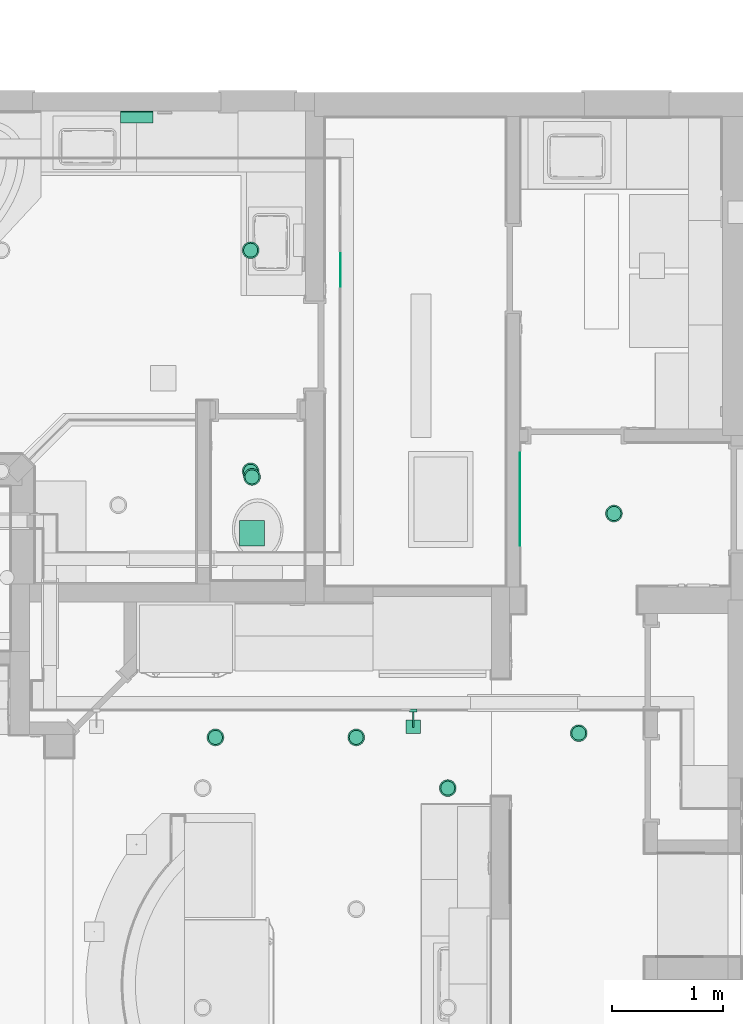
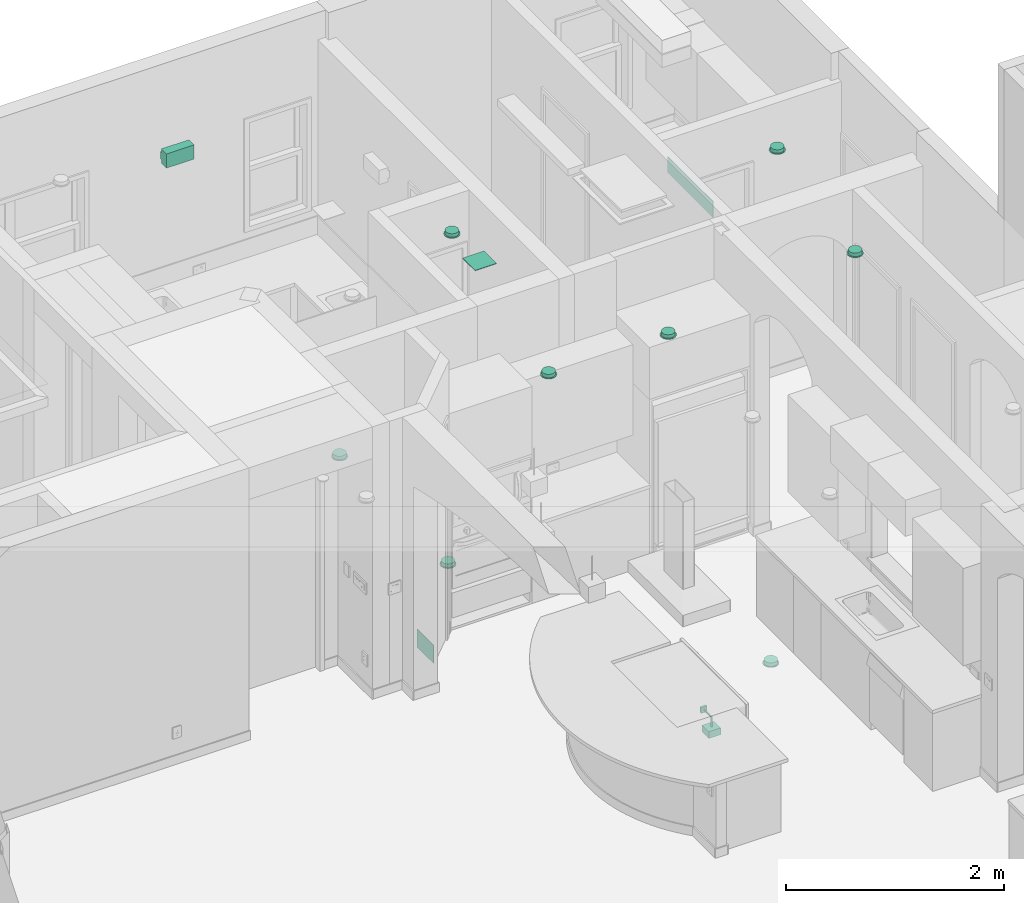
# One storey, part 42 of 60: 13 flow terminals.
"""IFC2X3 building model written with IfcOpenShell, lengths in feet."""

from ifc_helpers import new_model, entity, si_unit, converted_unit, direction, frame, frame_2d, origin, origin_2d_with_axis, place, context, subcontext, project, spatial, rectangle, extrude, faceted_brep, source, transform, mapped, material, material_list, type_object, type_shapes, element, save


model = new_model("IFC2X3")

# Units and contexts
model_context = context("Model", 3, precision=0.0001, world=origin(), true_north=direction((6.123031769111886e-17, 1.0)))
plan_context = context("Plan", 3, precision=0.0001, world=origin(), true_north=direction((6.123031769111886e-17, 1.0)))
body_context = subcontext(model_context, "Body", "Model", "MODEL_VIEW")
ifc_project = project(units=[converted_unit("LENGTHUNIT", "FOOT", entity("IfcLengthMeasure", 0.3048), si_unit("LENGTHUNIT", "METRE"), dimensions=[1, 0, 0, 0, 0, 0, 0]), converted_unit("AREAUNIT", "SQUARE FOOT", entity("IfcAreaMeasure", 0.09290304), si_unit("AREAUNIT", "SQUARE_METRE"), dimensions=[2, 0, 0, 0, 0, 0, 0]), converted_unit("PLANEANGLEUNIT", "DEGREE", entity("IfcPlaneAngleMeasure", 0.017453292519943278), si_unit("PLANEANGLEUNIT", "RADIAN"), dimensions=[0, 0, 0, 0, 0, 0, 0])], contexts=[model_context, plan_context])

# Site, building, storey
site_placement = place(None, origin())
site = spatial("IfcSite", under=ifc_project, at=site_placement, Name="Default", CompositionType="ELEMENT")
building_placement = place(site_placement, origin())
building = spatial("IfcBuilding", under=site, at=building_placement, CompositionType="ELEMENT")
storey_placement = place(building_placement, origin())
storey = spatial("IfcBuildingStorey", under=building, at=storey_placement, Name="First floor", CompositionType="ELEMENT", Elevation=0.0)

# Flow terminals
ifc_material_1 = material(Name="Default New Material")
ifc_material_2 = material(Name="Glass, White, High Luminance")
ifc_material_list = material_list([ifc_material_1, ifc_material_2])
light_fixture_type_1 = type_object("IfcLightFixtureType", Name="C_Spotlight Recessed:Light 2", PredefinedType="NOTDEFINED", material=ifc_material_list)
shared_shape_1 = source(origin(), body_context, "Body", "Brep", [
    faceted_brep([(-0.12499999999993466, 0.21650635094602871, 0.020833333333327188), (-0.17677669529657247, 0.17677669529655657, 0.020833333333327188), (-0.08333333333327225, 0.14433756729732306, 0.020833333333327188), (-0.04313650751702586, 0.1609876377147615, 0.020833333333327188), (-0.0647047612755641, 0.24148145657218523, 0.020833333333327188), (-0.11785113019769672, 0.11785113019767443, 0.020833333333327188), (-0.21650635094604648, 0.12499999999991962, 0.020833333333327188), (-0.1443375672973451, 0.08333333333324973, 0.020833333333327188), (-0.16098763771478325, 0.04313650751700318, 0.020833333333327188), (-0.2414814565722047, 0.06470476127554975, 0.020833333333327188), (-0.166666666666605, 0.0, 0.020833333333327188), (-0.24999999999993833, 0.0, 0.020833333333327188), (-0.16098763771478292, -0.043136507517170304, 0.020833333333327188), (-0.24148145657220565, -0.06470476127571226, 0.020833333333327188), (-0.14433756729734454, -0.08333333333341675, 0.020833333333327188), (-0.2165063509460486, -0.12500000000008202, 0.020833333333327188), (-0.117851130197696, -0.11785113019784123, 0.020833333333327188), (-0.1767766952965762, -0.17677669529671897, 0.020833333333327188), (-0.08333333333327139, -0.14433756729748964, 0.020833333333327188), (-0.12499999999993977, -0.21650635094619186, 0.020833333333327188), (-0.04313650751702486, -0.16098763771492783, 0.020833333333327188), (-0.06470476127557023, -0.24148145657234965, 0.020833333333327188), (0.0, -0.1666666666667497, 0.020833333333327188), (0.0, -0.25000000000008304, 0.020833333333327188), (0.04313650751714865, -0.1609876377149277, 0.020833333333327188), (0.06470476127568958, -0.24148145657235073, 0.020833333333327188), (0.08333333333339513, -0.1443375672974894, 0.020833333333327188), (0.12500000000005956, -0.21650635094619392, 0.020833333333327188), (0.11785113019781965, -0.11785113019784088, 0.020833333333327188), (0.1767766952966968, -0.1767766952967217, 0.020833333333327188), (0.14433756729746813, -0.0833333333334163, 0.020833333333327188), (0.21650635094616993, -0.12500000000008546, 0.020833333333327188), (0.24148145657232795, -0.06470476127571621, 0.020833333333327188), (0.16098763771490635, -0.0431365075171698, 0.020833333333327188), (0.2500000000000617, 0.0, 0.020833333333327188), (0.1666666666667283, 0.0, 0.020833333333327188), (0.24148145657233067, 0.06470476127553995, 0.020833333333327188), (0.16098763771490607, 0.04313650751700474, 0.020833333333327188), (0.21650635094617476, 0.12499999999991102, 0.020833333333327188), (0.14433756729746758, 0.08333333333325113, 0.020833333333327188), (0.17677669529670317, 0.17677669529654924, 0.020833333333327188), (0.1178511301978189, 0.11785113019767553, 0.020833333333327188), (0.1250000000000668, 0.21650635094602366, 0.020833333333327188), (0.08333333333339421, 0.14433756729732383, 0.020833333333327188), (0.06470476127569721, 0.2414814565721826, 0.020833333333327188), (0.04313650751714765, 0.16098763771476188, 0.020833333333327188), (0.0, 0.24999999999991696, 0.020833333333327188), (0.0, 0.1666666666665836, 0.020833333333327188), (-0.12499999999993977, -0.21650635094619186, 0.0), (-0.1767766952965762, -0.17677669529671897, 0.0), (-0.08333333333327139, -0.14433756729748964, 0.0), (-0.04313650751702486, -0.16098763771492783, 0.0), (-0.06470476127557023, -0.24148145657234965, 0.0), (-0.117851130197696, -0.11785113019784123, 0.0), (-0.2165063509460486, -0.12500000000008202, 0.0), (-0.14433756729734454, -0.08333333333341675, 0.0), (-0.16098763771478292, -0.043136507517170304, 0.0), (-0.24148145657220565, -0.06470476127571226, 0.0), (-0.166666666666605, 0.0, 0.0), (-0.24999999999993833, 0.0, 0.0), (-0.16098763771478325, 0.04313650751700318, 0.0), (-0.2414814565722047, 0.06470476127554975, 0.0), (-0.1443375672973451, 0.08333333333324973, 0.0), (-0.21650635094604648, 0.12499999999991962, 0.0), (-0.11785113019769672, 0.11785113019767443, 0.0), (-0.17677669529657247, 0.17677669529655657, 0.0), (-0.08333333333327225, 0.14433756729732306, 0.0), (-0.12499999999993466, 0.21650635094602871, 0.0), (-0.04313650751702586, 0.1609876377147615, 0.0), (-0.0647047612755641, 0.24148145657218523, 0.0), (0.0, 0.1666666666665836, 0.0), (0.0, 0.24999999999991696, 0.0), (0.04313650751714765, 0.16098763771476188, 0.0), (0.06470476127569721, 0.2414814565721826, 0.0), (0.08333333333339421, 0.14433756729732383, 0.0), (0.1250000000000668, 0.21650635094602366, 0.0), (0.1178511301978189, 0.11785113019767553, 0.0), (0.17677669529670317, 0.17677669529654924, 0.0), (0.14433756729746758, 0.08333333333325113, 0.0), (0.21650635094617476, 0.12499999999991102, 0.0), (0.24148145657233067, 0.06470476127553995, 0.0), (0.16098763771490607, 0.04313650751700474, 0.0), (0.2500000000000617, 0.0, 0.0), (0.1666666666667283, 0.0, 0.0), (0.24148145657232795, -0.06470476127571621, 0.0), (0.16098763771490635, -0.0431365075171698, 0.0), (0.21650635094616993, -0.12500000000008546, 0.0), (0.14433756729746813, -0.0833333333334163, 0.0), (0.1767766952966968, -0.1767766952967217, 0.0), (0.11785113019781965, -0.11785113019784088, 0.0), (0.12500000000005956, -0.21650635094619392, 0.0), (0.08333333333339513, -0.1443375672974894, 0.0), (0.06470476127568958, -0.24148145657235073, 0.0), (0.04313650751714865, -0.1609876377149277, 0.0), (0.0, -0.25000000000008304, 0.0), (0.0, -0.1666666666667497, 0.0)], [[[0, 1, 2]], [[0, 2, 3]], [[3, 4, 0]], [[2, 1, 5]], [[6, 5, 1]], [[7, 5, 6]], [[8, 7, 6]], [[8, 6, 9]], [[8, 9, 10]], [[10, 9, 11]], [[12, 10, 11]], [[12, 11, 13]], [[14, 12, 13]], [[14, 13, 15]], [[16, 14, 15]], [[15, 17, 16]], [[17, 18, 16]], [[18, 17, 19]], [[18, 19, 20]], [[21, 20, 19]], [[20, 21, 22]], [[22, 21, 23]], [[23, 24, 22]], [[24, 23, 25]], [[24, 25, 26]], [[27, 26, 25]], [[27, 28, 26]], [[27, 29, 28]], [[30, 28, 29]], [[31, 30, 29]], [[32, 30, 31]], [[33, 30, 32]], [[33, 32, 34]], [[34, 35, 33]], [[36, 35, 34]], [[36, 37, 35]], [[37, 36, 38]], [[39, 37, 38]], [[39, 38, 40]], [[39, 40, 41]], [[40, 42, 41]], [[41, 42, 43]], [[43, 42, 44]], [[44, 45, 43]], [[46, 45, 44]], [[4, 47, 46]], [[45, 46, 47]], [[4, 3, 47]], [[48, 49, 50]], [[48, 50, 51]], [[51, 52, 48]], [[50, 49, 53]], [[54, 53, 49]], [[55, 53, 54]], [[56, 55, 54]], [[56, 54, 57]], [[56, 57, 58]], [[58, 57, 59]], [[60, 58, 59]], [[60, 59, 61]], [[62, 60, 61]], [[62, 61, 63]], [[64, 62, 63]], [[63, 65, 64]], [[65, 66, 64]], [[66, 65, 67]], [[66, 67, 68]], [[69, 68, 67]], [[68, 69, 70]], [[70, 69, 71]], [[71, 72, 70]], [[72, 71, 73]], [[72, 73, 74]], [[75, 74, 73]], [[75, 76, 74]], [[75, 77, 76]], [[78, 76, 77]], [[79, 78, 77]], [[80, 78, 79]], [[81, 78, 80]], [[81, 80, 82]], [[82, 83, 81]], [[84, 83, 82]], [[84, 85, 83]], [[85, 84, 86]], [[87, 85, 86]], [[87, 86, 88]], [[87, 88, 89]], [[88, 90, 89]], [[89, 90, 91]], [[91, 90, 92]], [[92, 93, 91]], [[94, 93, 92]], [[52, 95, 94]], [[93, 94, 95]], [[52, 51, 95]], [[10, 58, 60, 8]], [[8, 60, 62, 7]], [[2, 5, 64, 66]], [[62, 64, 5, 7]], [[3, 2, 66, 68]], [[70, 47, 3, 68]], [[45, 72, 74, 43]], [[43, 74, 76, 41]], [[37, 39, 78, 81]], [[76, 78, 39, 41]], [[35, 37, 81, 83]], [[45, 47, 70, 72]], [[35, 83, 85, 33]], [[33, 85, 87, 30]], [[26, 28, 89, 91]], [[87, 89, 28, 30]], [[24, 26, 91, 93]], [[95, 22, 24, 93]], [[20, 51, 50, 18]], [[18, 50, 53, 16]], [[12, 14, 55, 56]], [[53, 55, 14, 16]], [[10, 12, 56, 58]], [[20, 22, 95, 51]], [[57, 13, 11, 59]], [[54, 15, 13, 57]], [[19, 17, 49, 48]], [[54, 49, 17, 15]], [[21, 19, 48, 52]], [[23, 21, 52, 94]], [[92, 25, 23, 94]], [[90, 27, 25, 92]], [[31, 29, 88, 86]], [[90, 88, 29, 27]], [[32, 31, 86, 84]], [[34, 32, 84, 82]], [[80, 36, 34, 82]], [[79, 38, 36, 80]], [[42, 40, 77, 75]], [[79, 77, 40, 38]], [[44, 42, 75, 73]], [[46, 44, 73, 71]], [[69, 4, 46, 71]], [[67, 0, 4, 69]], [[6, 1, 65, 63]], [[67, 65, 1, 0]], [[9, 6, 63, 61]], [[11, 9, 61, 59]]]),
    faceted_brep([(0.043136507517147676, -0.160987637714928, 0.020833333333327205), (0.08333333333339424, -0.14433756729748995, 0.020833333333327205), (0.11785113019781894, -0.11785113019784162, 0.020833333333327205), (0.14433756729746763, -0.08333333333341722, 0.020833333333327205), (0.16098763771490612, -0.043136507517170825, 0.020833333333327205), (0.16666666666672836, 0.0, 0.020833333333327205), (0.1609876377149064, 0.04313650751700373, 0.020833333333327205), (0.1443375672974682, 0.08333333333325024, 0.020833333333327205), (0.11785113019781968, 0.11785113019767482, 0.020833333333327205), (0.08333333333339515, 0.14433756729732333, 0.020833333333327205), (0.043136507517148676, 0.16098763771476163, 0.020833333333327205), (0.0, 0.16666666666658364, 0.020833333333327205), (-0.04313650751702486, 0.16098763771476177, 0.020833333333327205), (-0.08333333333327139, 0.14433756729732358, 0.020833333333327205), (-0.117851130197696, 0.11785113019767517, 0.020833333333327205), (-0.1443375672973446, 0.08333333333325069, 0.020833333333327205), (-0.16098763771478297, 0.043136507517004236, 0.020833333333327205), (-0.166666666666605, 0.0, 0.020833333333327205), (-0.1609876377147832, -0.04313650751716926, 0.020833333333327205), (-0.14433756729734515, -0.08333333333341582, 0.020833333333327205), (-0.11785113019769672, -0.11785113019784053, 0.020833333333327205), (-0.08333333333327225, -0.14433756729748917, 0.020833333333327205), (-0.04313650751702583, -0.1609876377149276, 0.020833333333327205), (0.0, -0.16666666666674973, 0.020833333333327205), (0.043136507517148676, 0.16098763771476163, 0.0), (0.08333333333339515, 0.14433756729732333, 0.0), (0.11785113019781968, 0.11785113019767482, 0.0), (0.1443375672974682, 0.08333333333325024, 0.0), (0.1609876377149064, 0.04313650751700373, 0.0), (0.16666666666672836, 0.0, 0.0), (0.16098763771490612, -0.043136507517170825, 0.0), (0.14433756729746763, -0.08333333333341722, 0.0), (0.11785113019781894, -0.11785113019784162, 0.0), (0.08333333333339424, -0.14433756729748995, 0.0), (0.043136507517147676, -0.160987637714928, 0.0), (0.0, -0.16666666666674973, 0.0), (-0.04313650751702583, -0.1609876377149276, 0.0), (-0.08333333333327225, -0.14433756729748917, 0.0), (-0.11785113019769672, -0.11785113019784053, 0.0), (-0.14433756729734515, -0.08333333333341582, 0.0), (-0.1609876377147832, -0.04313650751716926, 0.0), (-0.166666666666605, 0.0, 0.0), (-0.16098763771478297, 0.043136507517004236, 0.0), (-0.1443375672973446, 0.08333333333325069, 0.0), (-0.117851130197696, 0.11785113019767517, 0.0), (-0.08333333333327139, 0.14433756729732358, 0.0), (-0.04313650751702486, 0.16098763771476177, 0.0), (0.0, 0.16666666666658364, 0.0)], [[[0, 1, 2, 3, 4, 5, 6, 7, 8, 9, 10, 11, 12, 13, 14, 15, 16, 17, 18, 19, 20, 21, 22, 23]], [[24, 25, 26, 27, 28, 29, 30, 31, 32, 33, 34, 35, 36, 37, 38, 39, 40, 41, 42, 43, 44, 45, 46, 47]], [[40, 18, 17, 41]], [[39, 19, 18, 40]], [[21, 20, 38, 37]], [[39, 38, 20, 19]], [[22, 21, 37, 36]], [[23, 22, 36, 35]], [[34, 0, 23, 35]], [[33, 1, 0, 34]], [[3, 2, 32, 31]], [[33, 32, 2, 1]], [[4, 3, 31, 30]], [[5, 4, 30, 29]], [[28, 6, 5, 29]], [[27, 7, 6, 28]], [[9, 8, 26, 25]], [[27, 26, 8, 7]], [[10, 9, 25, 24]], [[11, 10, 24, 47]], [[46, 12, 11, 47]], [[45, 13, 12, 46]], [[15, 14, 44, 43]], [[45, 44, 14, 13]], [[16, 15, 43, 42]], [[17, 16, 42, 41]]]),
    faceted_brep([(0.0, -0.16666666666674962, -0.10416666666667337), (0.04313650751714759, -0.1609876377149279, -0.10416666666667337), (0.08333333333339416, -0.1443375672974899, -0.10416666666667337), (0.1178511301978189, -0.11785113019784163, -0.10416666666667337), (0.1443375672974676, -0.08333333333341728, -0.10416666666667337), (0.16098763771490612, -0.043136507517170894, -0.10416666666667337), (0.16666666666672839, 0.0, -0.10416666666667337), (0.16098763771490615, 0.04313650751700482, -0.10416666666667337), (0.14433756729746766, 0.08333333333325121, -0.10416666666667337), (0.11785113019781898, 0.11785113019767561, -0.10416666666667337), (0.0833333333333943, 0.14433756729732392, -0.10416666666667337), (0.04313650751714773, 0.16098763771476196, -0.10416666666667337), (0.0, 0.1666666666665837, -0.10416666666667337), (-0.043136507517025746, 0.16098763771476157, -0.10416666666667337), (-0.08333333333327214, 0.14433756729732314, -0.10416666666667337), (-0.11785113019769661, 0.11785113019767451, -0.10416666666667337), (-0.14433756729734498, 0.08333333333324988, -0.10416666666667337), (-0.16098763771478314, 0.04313650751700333, -0.10416666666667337), (-0.16666666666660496, 0.0, -0.10416666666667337), (-0.16098763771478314, -0.04313650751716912, -0.10416666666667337), (-0.1443375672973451, -0.08333333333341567, -0.10416666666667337), (-0.11785113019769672, -0.11785113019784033, -0.10416666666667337), (-0.08333333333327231, -0.14433756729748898, -0.10416666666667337), (-0.04313650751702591, -0.16098763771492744, -0.10416666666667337), (0.0, 0.20833333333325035, -0.12500000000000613), (0.053920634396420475, 0.20123454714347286, -0.12500000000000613), (0.10416666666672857, 0.18042195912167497, -0.12500000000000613), (0.14731391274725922, 0.14731391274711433, -0.12500000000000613), (0.18042195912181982, 0.1041666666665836, -0.12500000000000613), (0.2012345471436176, 0.053920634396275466, -0.12500000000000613), (0.20833333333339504, 0.0, -0.12500000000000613), (0.20123454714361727, -0.0539206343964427, -0.12500000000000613), (0.18042195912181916, -0.10416666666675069, -0.12500000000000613), (0.1473139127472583, -0.14731391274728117, -0.12500000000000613), (0.10416666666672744, -0.18042195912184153, -0.12500000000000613), (0.053920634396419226, -0.2012345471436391, -0.12500000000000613), (0.0, -0.20833333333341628, -0.12500000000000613), (-0.05392063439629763, -0.20123454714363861, -0.12500000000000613), (-0.10416666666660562, -0.18042195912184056, -0.12500000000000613), (-0.14731391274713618, -0.1473139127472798, -0.12500000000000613), (-0.18042195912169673, -0.10416666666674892, -0.12500000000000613), (-0.20123454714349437, -0.05392063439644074, -0.12500000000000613), (-0.2083333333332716, 0.0, -0.12500000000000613), (-0.20123454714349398, 0.053920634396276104, -0.12500000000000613), (-0.18042195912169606, 0.10416666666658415, -0.12500000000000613), (-0.1473139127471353, 0.14731391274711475, -0.12500000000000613), (-0.10416666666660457, 0.1804219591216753, -0.12500000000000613), (-0.05392063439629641, 0.20123454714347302, -0.12500000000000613), (-0.2012345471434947, -0.053920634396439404, -0.10416666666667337), (-0.20123454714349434, -0.053920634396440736, 0.0), (-0.20833333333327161, 0.0, 0.0), (-0.2083333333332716, 0.0, -0.10416666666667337), (-0.1804219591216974, -0.10416666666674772, -0.10416666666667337), (-0.1804219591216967, -0.10416666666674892, 0.0), (-0.10416666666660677, -0.18042195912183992, -0.10416666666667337), (-0.10416666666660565, -0.18042195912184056, 0.0), (-0.1473139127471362, -0.1473139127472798, 0.0), (-0.14731391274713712, -0.14731391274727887, -0.10416666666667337), (-0.053920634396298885, -0.20123454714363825, -0.10416666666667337), (-0.05392063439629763, -0.20123454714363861, 0.0), (0.0, -0.20833333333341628, -0.10416666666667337), (0.0, -0.20833333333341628, 0.0), (0.05392063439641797, -0.20123454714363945, -0.10416666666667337), (0.053920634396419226, -0.2012345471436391, 0.0), (0.10416666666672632, -0.1804219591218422, -0.10416666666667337), (0.10416666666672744, -0.18042195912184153, 0.0), (0.1804219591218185, -0.1041666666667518, -0.10416666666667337), (0.18042195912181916, -0.10416666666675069, 0.0), (0.1473139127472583, -0.14731391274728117, 0.0), (0.1473139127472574, -0.1473139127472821, -0.10416666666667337), (0.20123454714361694, -0.05392063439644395, -0.10416666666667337), (0.20123454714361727, -0.05392063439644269, 0.0), (0.20833333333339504, 0.0, -0.10416666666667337), (0.20833333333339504, 0.0, 0.0), (0.2012345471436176, 0.053920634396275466, -0.10416666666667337), (0.2012345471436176, 0.05392063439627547, 0.0), (0.18042195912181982, 0.1041666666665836, -0.10416666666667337), (0.18042195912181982, 0.1041666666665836, 0.0), (0.10416666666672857, 0.18042195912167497, -0.10416666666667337), (0.10416666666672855, 0.18042195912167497, 0.0), (0.14731391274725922, 0.14731391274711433, 0.0), (0.14731391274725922, 0.14731391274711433, -0.10416666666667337), (0.053920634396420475, 0.20123454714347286, -0.10416666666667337), (0.053920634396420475, 0.20123454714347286, 0.0), (0.0, 0.20833333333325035, -0.10416666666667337), (0.0, 0.20833333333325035, 0.0), (-0.05392063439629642, 0.20123454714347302, -0.10416666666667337), (-0.05392063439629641, 0.20123454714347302, 0.0), (-0.10416666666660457, 0.1804219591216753, -0.10416666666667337), (-0.10416666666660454, 0.1804219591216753, 0.0), (-0.18042195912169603, 0.10416666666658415, -0.10416666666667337), (-0.18042195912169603, 0.10416666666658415, 0.0), (-0.14731391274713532, 0.14731391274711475, 0.0), (-0.14731391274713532, 0.14731391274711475, -0.10416666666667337), (-0.20123454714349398, 0.053920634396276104, -0.10416666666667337), (-0.20123454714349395, 0.05392063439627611, 0.0), (-0.08333333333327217, 0.14433756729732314, 0.0), (-0.043136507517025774, 0.16098763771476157, 0.0), (-0.11785113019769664, 0.11785113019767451, 0.0), (-0.144337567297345, 0.08333333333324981, 0.0), (-0.16098763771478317, 0.04313650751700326, 0.0), (-0.16666666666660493, 0.0, 0.0), (-0.16098763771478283, -0.04313650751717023, 0.0), (-0.14433756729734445, -0.08333333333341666, 0.0), (-0.11785113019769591, -0.11785113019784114, 0.0), (-0.08333333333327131, -0.14433756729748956, 0.0), (-0.043136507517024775, -0.16098763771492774, 0.0), (0.0, -0.16666666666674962, 0.0), (0.04313650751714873, -0.1609876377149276, 0.0), (0.08333333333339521, -0.1443375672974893, 0.0), (0.11785113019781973, -0.1178511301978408, 0.0), (0.14433756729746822, -0.08333333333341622, 0.0), (0.16098763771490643, -0.04313650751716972, 0.0), (0.16666666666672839, 0.0, 0.0), (0.16098763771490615, 0.04313650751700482, 0.0), (0.14433756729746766, 0.08333333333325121, 0.0), (0.11785113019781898, 0.11785113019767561, 0.0), (0.0833333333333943, 0.14433756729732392, 0.0), (0.04313650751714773, 0.16098763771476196, 0.0), (0.0, 0.1666666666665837, 0.0)], [[[0, 1, 2, 3, 4, 5, 6, 7, 8, 9, 10, 11, 12, 13, 14, 15, 16, 17, 18, 19, 20, 21, 22, 23]], [[24, 25, 26, 27, 28, 29, 30, 31, 32, 33, 34, 35, 36, 37, 38, 39, 40, 41, 42, 43, 44, 45, 46, 47]], [[41, 48, 49, 50, 51, 42]], [[40, 52, 53, 49, 48, 41]], [[54, 55, 56, 57, 39, 38]], [[40, 39, 57, 56, 53, 52]], [[58, 59, 55, 54, 38, 37]], [[60, 61, 59, 58, 37, 36]], [[35, 62, 63, 61, 60, 36]], [[34, 64, 65, 63, 62, 35]], [[66, 67, 68, 69, 33, 32]], [[34, 33, 69, 68, 65, 64]], [[70, 71, 67, 66, 32, 31]], [[72, 73, 71, 70, 31, 30]], [[29, 74, 75, 73, 72, 30]], [[28, 76, 77, 75, 74, 29]], [[78, 79, 80, 81, 27, 26]], [[28, 27, 81, 80, 77, 76]], [[82, 83, 79, 78, 26, 25]], [[84, 85, 83, 82, 25, 24]], [[47, 86, 87, 85, 84, 24]], [[46, 88, 89, 87, 86, 47]], [[90, 91, 92, 93, 45, 44]], [[46, 45, 93, 92, 89, 88]], [[94, 95, 91, 90, 44, 43]], [[51, 50, 95, 94, 43, 42]], [[89, 92, 96]], [[89, 96, 97]], [[97, 87, 89]], [[96, 92, 98]], [[91, 98, 92]], [[99, 98, 91]], [[100, 99, 91]], [[100, 91, 95]], [[100, 95, 101]], [[101, 95, 50]], [[102, 101, 50]], [[102, 50, 49]], [[103, 102, 49]], [[103, 49, 53]], [[104, 103, 53]], [[53, 56, 104]], [[56, 105, 104]], [[105, 56, 55]], [[105, 55, 106]], [[59, 106, 55]], [[106, 59, 107]], [[107, 59, 61]], [[61, 108, 107]], [[108, 61, 63]], [[108, 63, 109]], [[65, 109, 63]], [[65, 110, 109]], [[65, 68, 110]], [[111, 110, 68]], [[67, 111, 68]], [[71, 111, 67]], [[112, 111, 71]], [[112, 71, 73]], [[73, 113, 112]], [[75, 113, 73]], [[75, 114, 113]], [[114, 75, 77]], [[115, 114, 77]], [[115, 77, 80]], [[115, 80, 116]], [[80, 79, 116]], [[116, 79, 117]], [[117, 79, 83]], [[83, 118, 117]], [[85, 118, 83]], [[87, 119, 85]], [[85, 119, 118]], [[87, 97, 119]], [[113, 6, 5, 112]], [[112, 5, 4, 111]], [[109, 110, 3, 2]], [[4, 3, 110, 111]], [[108, 109, 2, 1]], [[0, 107, 108, 1]], [[104, 105, 22, 21]], [[23, 22, 105, 106]], [[102, 103, 20, 19]], [[104, 21, 20, 103]], [[102, 19, 18, 101]], [[0, 23, 106, 107]], [[101, 18, 17, 100]], [[100, 17, 16, 99]], [[96, 98, 15, 14]], [[16, 15, 98, 99]], [[97, 96, 14, 13]], [[12, 119, 97, 13]], [[118, 11, 10, 117]], [[117, 10, 9, 116]], [[114, 115, 8, 7]], [[9, 8, 115, 116]], [[113, 114, 7, 6]], [[118, 119, 12, 11]]]),
])
type_shapes(light_fixture_type_1, [shared_shape_1])
for number, where, z_axis, x_axis, name in (
    (1, (15.500006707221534, 29.082949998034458, 21.166666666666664), (0.0, 0.0, -1.0), (-1.0, 2.862709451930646e-05, 0.0), "C_Spotlight Recessed:Light 2"),
    (2, (16.541666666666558, 35.5829881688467, 20.666666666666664), (0.0, 0.0, -1.0), (1.0, 0.0, 0.0), "C_Spotlight Recessed:Light 2"),
    (3, (5.833333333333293, 36.66666666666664, 20.666666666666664), (0.0, 0.0, -1.0), (1.0, 0.0, 0.0), "C_Spotlight Recessed:Light 2"),
    (4, (8.916329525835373, 28.958333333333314, 20.541666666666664), (0.0, 0.0, -1.0), (0.0, -1.0, 0.0), "C_Spotlight Recessed:Light 2"),
    (5, (4.749662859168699, 28.958333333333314, 20.541666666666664), (0.0, 0.0, -1.0), (0.0, -1.0, 0.0), "C_Spotlight Recessed:Light 2"),
    (6, (11.62499999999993, 27.458333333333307, 8.416666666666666), (0.0, 0.0, -1.0), (0.0, -1.0, 0.0), "C_Spotlight Recessed:Light 2"),
    (7, (5.791666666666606, 36.83333333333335, 8.416666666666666), (0.0, 0.0, -1.0), (0.0, -1.0, 0.0), "C_Spotlight Recessed:Light 2"),
    (8, (5.791666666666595, 43.375000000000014, 8.416666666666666), (0.0, 0.0, -1.0), (0.0, -1.0, 0.0), "C_Spotlight Recessed:Light 2"),
):
    element("IfcFlowTerminal", number, at=place(storey_placement, frame(where, z_axis=z_axis, x_axis=x_axis)), inside=storey, type_object=light_fixture_type_1, material=ifc_material_list, Name=name, ObjectType="C_Spotlight Recessed:Light 2", context=body_context, shape_type="MappedRepresentation", body=[
        mapped(shared_shape_1, transform((0.0, 0.0, 0.0), scale=1.0)),
    ])
air_terminal_type_1 = type_object("IfcAirTerminalType", Name="C_Grill_Surface Based:Standard 2", PredefinedType="NOTDEFINED", material=ifc_material_1)
shared_shape_2 = source(origin(), body_context, "Body", "SweptSolid", [
    extrude(rectangle(XDim=2.75, YDim=0.5833333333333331, at=origin_2d_with_axis()), frame((0.0, 0.0, 0.0), z_axis=(0.0, 0.0, 1.0), x_axis=(-1.0, 0.0, 0.0)), (0.0, 0.0, 1.0), 0.020833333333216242),
])
type_shapes(air_terminal_type_1, [shared_shape_2])
flow_terminal_1_placement = place(storey_placement, frame((13.749999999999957, 36.005188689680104, 20.0), z_axis=(1.0, 0.0, 0.0), x_axis=(0.0, 1.0, 0.0)))
element("IfcFlowTerminal", 9, at=flow_terminal_1_placement, inside=storey, type_object=air_terminal_type_1, material=ifc_material_1, Name="C_Grill_Surface Based:Standard 2", ObjectType="C_Grill_Surface Based:Standard 2", context=body_context, shape_type="MappedRepresentation", body=[
    mapped(shared_shape_2, transform((0.0, 0.0, 0.0), scale=1.0)),
])
air_terminal_type_2 = type_object("IfcAirTerminalType", Name="C_Grill_Surface Based:Standard 2", PredefinedType="NOTDEFINED", material=ifc_material_1)
shared_shape_3 = source(origin(), body_context, "Body", "SweptSolid", [
    extrude(rectangle(XDim=0.75, YDim=0.7499999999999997, at=origin_2d_with_axis()), frame((0.0, 0.0, 0.0), z_axis=(0.0, 0.0, 1.0), x_axis=(-1.0, 0.0, 0.0)), (0.0, 0.0, 1.0), 0.020833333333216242),
])
type_shapes(air_terminal_type_2, [shared_shape_3])
flow_terminal_2_placement = place(storey_placement, frame((5.833333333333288, 34.99965483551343, 20.666666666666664), z_axis=(0.0, 0.0, -1.0), x_axis=(1.0, 0.0, 0.0)))
element("IfcFlowTerminal", 10, at=flow_terminal_2_placement, inside=storey, type_object=air_terminal_type_2, material=ifc_material_1, Name="C_Grill_Surface Based:Standard 2", ObjectType="C_Grill_Surface Based:Standard 2", context=body_context, shape_type="MappedRepresentation", body=[
    mapped(shared_shape_3, transform((0.0, 0.0, 0.0), scale=1.0)),
])
light_fixture_type_2 = type_object("IfcLightFixtureType", Name="C_Wall Lamp Horizontal:C_Wall Lamp Horizontal", PredefinedType="NOTDEFINED", material=ifc_material_1)
shared_shape_4 = source(origin(), body_context, "Body", "SweptSolid", [
    extrude(rectangle(XDim=0.9583333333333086, YDim=0.31250000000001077, at=frame_2d((0.0, 5.551115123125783e-17), x_axis=(1.0, 0.0))), frame((-0.11927710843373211, 0.46874999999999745, -12.162487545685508)), (0.0, 0.0, 1.0), 0.520833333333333),
    extrude(rectangle(XDim=0.9583333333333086, YDim=0.041666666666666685, at=frame_2d((0.0, 2.7755575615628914e-17), x_axis=(1.0, 0.0))), frame((-0.11927710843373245, 0.29166666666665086, -12.037245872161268)), (0.0, 0.0, 1.0), 0.27083333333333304),
])
type_shapes(light_fixture_type_2, [shared_shape_4])
flow_terminal_3_placement = place(storey_placement, frame((2.2973895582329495, 47.770488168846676, 30.23540421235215), z_axis=(0.0, 0.0, 1.0), x_axis=(-1.0, 0.0, 0.0)))
element("IfcFlowTerminal", 11, at=flow_terminal_3_placement, inside=storey, type_object=light_fixture_type_2, material=ifc_material_1, Name="C_Wall Lamp Horizontal:C_Wall Lamp Horizontal", ObjectType="C_Wall Lamp Horizontal:C_Wall Lamp Horizontal", context=body_context, shape_type="MappedRepresentation", body=[
    mapped(shared_shape_4, transform((0.0, 0.0, 0.0), scale=1.0)),
])
air_terminal_type_3 = type_object("IfcAirTerminalType", Name="C_Grill_Surface Based:Standard 2", PredefinedType="NOTDEFINED", material=ifc_material_1)
shared_shape_5 = source(origin(), body_context, "Body", "SweptSolid", [
    extrude(rectangle(XDim=1.0, YDim=0.6666666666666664, at=origin_2d_with_axis()), frame((0.0, 0.0, 0.0), z_axis=(0.0, 0.0, 1.0), x_axis=(-1.0, 0.0, 0.0)), (0.0, 0.0, 1.0), 0.020833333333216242),
])
type_shapes(air_terminal_type_3, [shared_shape_5])
flow_terminal_4_placement = place(storey_placement, frame((8.458333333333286, 42.79166666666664, 0.8333333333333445), z_axis=(-1.0, 0.0, 0.0), x_axis=(0.0, -1.0, 0.0)))
element("IfcFlowTerminal", 12, at=flow_terminal_4_placement, inside=storey, type_object=air_terminal_type_3, material=ifc_material_1, Name="C_Grill_Surface Based:Standard 2", ObjectType="C_Grill_Surface Based:Standard 2", context=body_context, shape_type="MappedRepresentation", body=[
    mapped(shared_shape_5, transform((0.0, 0.0, 0.0), scale=1.0)),
])
light_fixture_type_3 = type_object("IfcLightFixtureType", Name="C_Sconce Downwards:33700 ICARIA White ceiling fan / Wood Blade", PredefinedType="NOTDEFINED", material=ifc_material_1)
shared_shape_6 = source(origin(), body_context, "Body", "Brep", [
    faceted_brep([(-0.10416666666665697, -0.10416666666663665, 0.08333333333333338), (0.10416666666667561, -0.10416666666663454, 0.08333333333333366), (0.1041666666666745, 0.10416666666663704, 0.0833333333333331), (-0.1041666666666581, 0.1041666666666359, 0.08333333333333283), (0.020833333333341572, 0.020833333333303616, 0.08333333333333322), (0.020833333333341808, -0.02083333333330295, 0.08333333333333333), (-0.020833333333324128, -0.020833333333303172, 0.08333333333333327), (-0.020833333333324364, 0.020833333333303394, 0.08333333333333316), (-0.10416666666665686, -0.10416666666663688, 0.0), (-0.10416666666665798, 0.10416666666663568, 0.0), (0.10416666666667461, 0.10416666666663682, 0.0), (0.10416666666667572, -0.10416666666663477, 0.0), (0.020833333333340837, 0.020833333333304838, 0.5416666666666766), (0.02083333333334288, -0.3541666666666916, 0.5416666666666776), (0.02083333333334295, -0.3541666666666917, 0.500000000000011), (0.02083333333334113, -0.02083333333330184, 0.5000000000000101), (-0.020833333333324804, -0.020833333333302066, 0.50000000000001), (-0.020833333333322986, -0.35416666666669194, 0.5000000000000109), (-0.020833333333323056, -0.35416666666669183, 0.5416666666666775), (-0.0208333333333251, 0.020833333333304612, 0.5416666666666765)], [[[0, 1, 2, 3], [4, 5, 6, 7]], [[8, 9, 10, 11]], [[0, 3, 9, 8]], [[3, 2, 10, 9]], [[2, 1, 11, 10]], [[1, 0, 8, 11]], [[12, 13, 14, 15, 5, 4]], [[16, 17, 18, 19, 7, 6]], [[15, 16, 6, 5]], [[19, 12, 4, 7]], [[13, 12, 19, 18]], [[14, 13, 18, 17]], [[15, 14, 17, 16]]]),
    faceted_brep([(0.20833333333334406, -0.3541666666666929, 0.31600321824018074), (0.2083333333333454, -0.6041666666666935, 0.3160032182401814), (-0.20833333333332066, -0.6041666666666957, 0.3160032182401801), (-0.20833333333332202, -0.35416666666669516, 0.3160032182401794), (0.20833333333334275, -0.35416666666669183, 0.7205016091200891), (-0.2083333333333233, -0.3541666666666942, 0.7205016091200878), (-0.20833333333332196, -0.6041666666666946, 0.7205016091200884), (0.20833333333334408, -0.6041666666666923, 0.7205016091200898)], [[[0, 1, 2, 3]], [[4, 5, 6, 7]], [[4, 7, 1, 0]], [[7, 6, 2, 1]], [[6, 5, 3, 2]], [[5, 4, 0, 3]]]),
])
type_shapes(light_fixture_type_3, [shared_shape_6])
flow_terminal_5_placement = place(storey_placement, frame((10.604106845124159, 29.79166666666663, 5.6666666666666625), z_axis=(0.0, -1.0, 0.0), x_axis=(1.0, 0.0, 0.0)))
element("IfcFlowTerminal", 13, at=flow_terminal_5_placement, inside=storey, type_object=light_fixture_type_3, material=ifc_material_1, Name="C_Sconce Downwards:33700 ICARIA White ceiling fan / Wood Blade", ObjectType="C_Sconce Downwards:33700 ICARIA White ceiling fan / Wood Blade", context=body_context, shape_type="MappedRepresentation", body=[
    mapped(shared_shape_6, transform((0.0, 0.0, 0.0), scale=1.0)),
])

save(model, "model.ifc")
